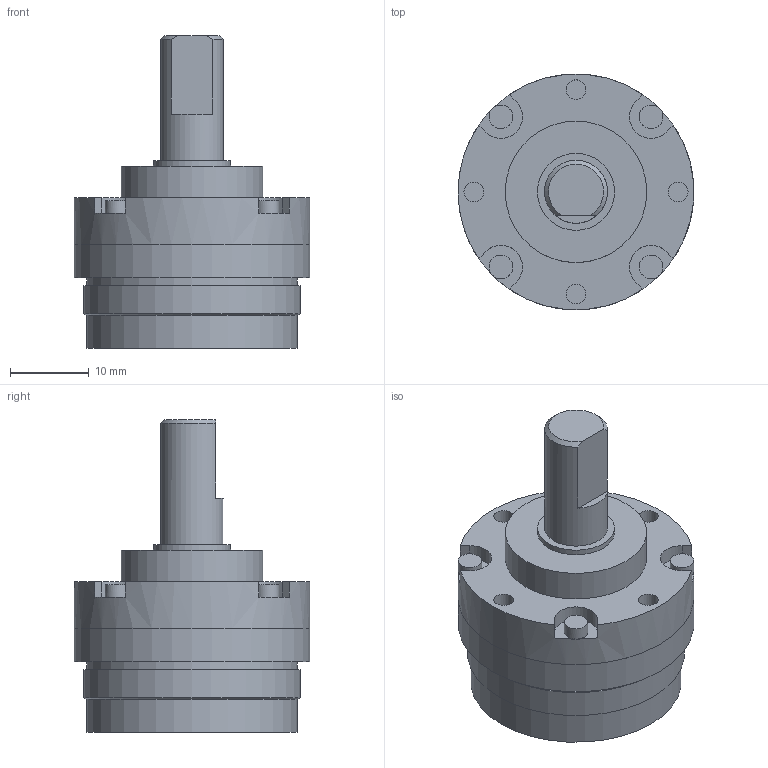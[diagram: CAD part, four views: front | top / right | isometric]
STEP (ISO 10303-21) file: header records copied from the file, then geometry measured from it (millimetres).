
FILE_DESCRIPTION(/* description */ (''),/* implementation_level */ '2;1');
FILE_NAME(/* name */ '30-1_1.stp',/* time_stamp */ '2016-09-07T09:27:36+02:00',/* author */ ('DR. FRITZ FAULHABER GmbH & Co. KG'),/* organization */ ('DR. FRITZ FAULHABER GmbH & Co. KG'),/* preprocessor_version */ 'ST-DEVELOPER v16',/* originating_system */ 'SIEMENS PLM Software NX 10.0',/* authorisation */ '');
FILE_SCHEMA (('AUTOMOTIVE_DESIGN { 1 0 10303 214 3 1 1 1 }'));
Length unit declared in the file: millimetre
Products named in the file (1): H00000172_A
Bounding box: 30 x 30 x 39.8 mm (x, y, z)
Volume: 13368.1 mm3; surface area: 4314.9 mm2
Topology: 1 solids, 1 shells, 62 faces, 212 edges, 237 vertices
Faces by surface type: plane 35, cylinder 25, cone 2
Full cylindrical faces by diameter (mm): 2.5 x4, 3 x4, 8 x1, 9.8 x1, 11.88 x1, 12.08 x1, 18 x1, 21.5 x1, 22.05 x1, 26.8 x2, 27.6 x1, 29.99 x1, 30 x2
Entity records: 2286 total; most frequent: DIRECTION 388, CARTESIAN_POINT 331, ORIENTED_EDGE 202, AXIS2_PLACEMENT_3D 144, EDGE_CURVE 101, LINE 100, VECTOR 100, EDGE_LOOP 99
